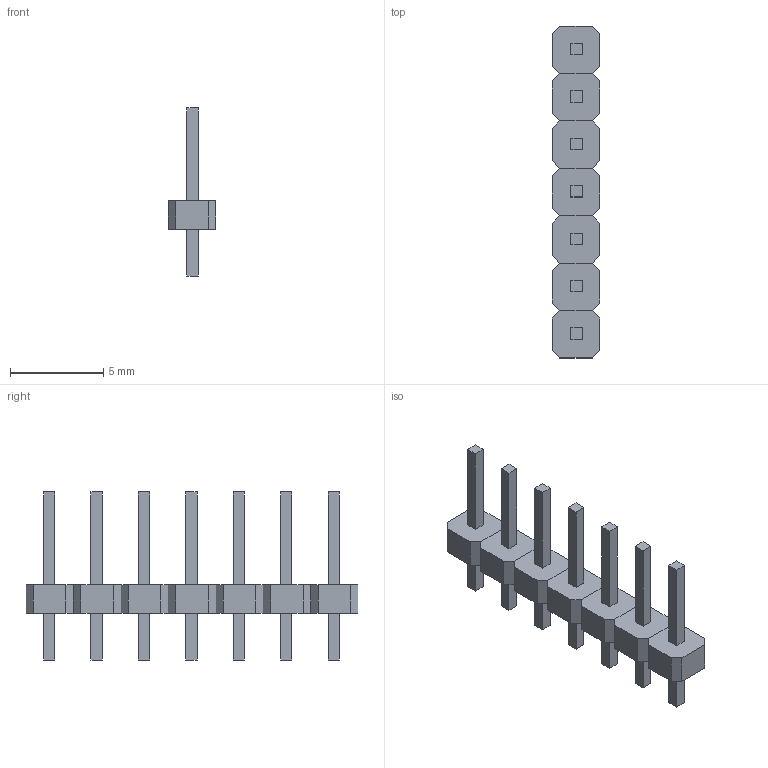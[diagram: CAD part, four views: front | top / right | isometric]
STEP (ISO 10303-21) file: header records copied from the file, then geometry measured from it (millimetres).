
FILE_DESCRIPTION(('FreeCAD Model'),'2;1');
FILE_NAME('Open CASCADE Shape Model','2025-02-25T20:26:02',( 'Krisjanis Rijnieks'),(''),'Open CASCADE STEP processor 7.7', 'FreeCAD','Unknown');
FILE_SCHEMA(('AUTOMOTIVE_DESIGN { 1 0 10303 214 1 1 1 1 }'));
Length unit declared in the file: millimetre
Products named in the file (17): 01x07_P2.54mm_Vertical_THT; 01x03_P2.54mm_Vertical_THT002; 01x01_P2.54mm_Vertical_THT021; PinHeader021; 01x01_P2.54mm_Vertical_THT022; PinHeader022; 01x01_P2.54mm_Vertical_THT023; PinHeader023; 01x04_P2.54mm_Vertical_THT002; 01x01_P2.54mm_Vertical_THT024; PinHeader024; 01x01_P2.54mm_Vertical_THT025; PinHeader025; 01x01_P2.54mm_Vertical_THT026; PinHeader026; 01x01_P2.54mm_Vertical_THT027; PinHeader027
Assembly tree (16 placements, depth 4):
  01x07_P2.54mm_Vertical_THT
    01x03_P2.54mm_Vertical_THT002
      01x01_P2.54mm_Vertical_THT021
        PinHeader021
      01x01_P2.54mm_Vertical_THT022
        PinHeader022
      01x01_P2.54mm_Vertical_THT023
        PinHeader023
    01x04_P2.54mm_Vertical_THT002
      01x01_P2.54mm_Vertical_THT024
        PinHeader024
      01x01_P2.54mm_Vertical_THT025
        PinHeader025
      01x01_P2.54mm_Vertical_THT026
        PinHeader026
      01x01_P2.54mm_Vertical_THT027
        PinHeader027
Bounding box: 2.54 x 17.78 x 9 mm (x, y, z)
Volume: 84.9 mm3; surface area: 310.6 mm2
Topology: 7 solids, 7 shells, 140 faces, 336 edges, 224 vertices
Faces by surface type: plane 140
Entity records: 4829 total; most frequent: CARTESIAN_POINT 717, ORIENTED_EDGE 672, DIRECTION 650, EDGE_CURVE 336, LINE 336, VECTOR 336, VERTEX_POINT 224, AXIS2_PLACEMENT_3D 157
